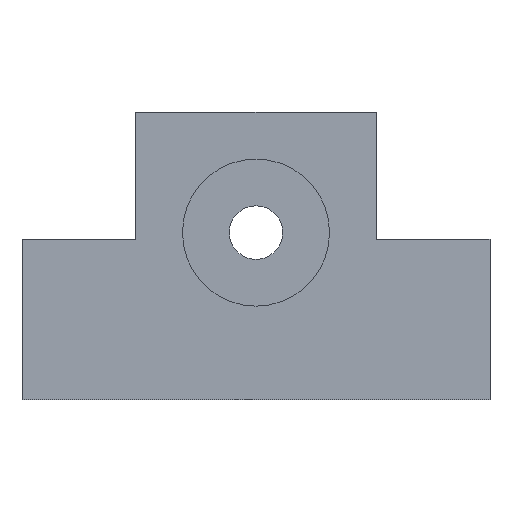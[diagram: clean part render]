
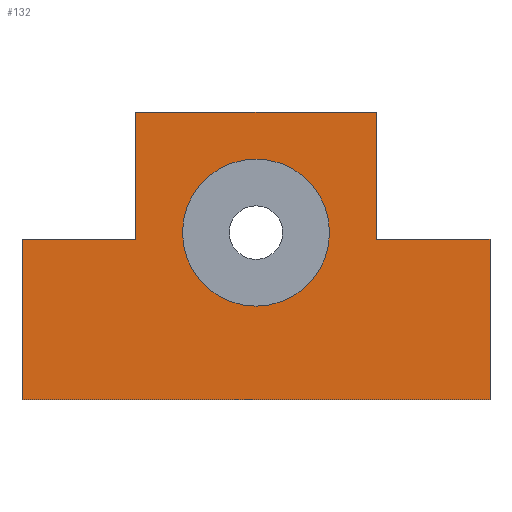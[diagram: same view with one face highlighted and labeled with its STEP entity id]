
A CAD part, left-side view. The second image highlights one B-rep face of the part: STEP entity #132.
In plain terms, the highlighted planar face has unit normal (-1, 0, 0).
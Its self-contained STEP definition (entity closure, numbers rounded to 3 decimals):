
#80=CIRCLE('',#403,11.);
#94=FACE_BOUND('',#172,.T.);
#95=FACE_BOUND('',#173,.T.);
#132=ADVANCED_FACE('',(#94,#95),#153,.F.);
#153=PLANE('',#404);
#172=EDGE_LOOP('',(#225,#226,#227,#228,#229,#230,#231,#232));
#173=EDGE_LOOP('',(#233));
#225=ORIENTED_EDGE('',*,*,#329,.F.);
#226=ORIENTED_EDGE('',*,*,#326,.F.);
#227=ORIENTED_EDGE('',*,*,#323,.F.);
#228=ORIENTED_EDGE('',*,*,#320,.F.);
#229=ORIENTED_EDGE('',*,*,#330,.F.);
#230=ORIENTED_EDGE('',*,*,#316,.F.);
#231=ORIENTED_EDGE('',*,*,#331,.F.);
#232=ORIENTED_EDGE('',*,*,#312,.F.);
#233=ORIENTED_EDGE('',*,*,#332,.T.);
#281=VERTEX_POINT('',#537);
#283=VERTEX_POINT('',#540);
#285=VERTEX_POINT('',#546);
#287=VERTEX_POINT('',#549);
#289=VERTEX_POINT('',#555);
#291=VERTEX_POINT('',#558);
#293=VERTEX_POINT('',#564);
#295=VERTEX_POINT('',#570);
#297=VERTEX_POINT('',#579);
#312=EDGE_CURVE('LINE',#281,#283,#350,.T.);
#316=EDGE_CURVE('LINE',#285,#287,#354,.T.);
#320=EDGE_CURVE('LINE',#289,#291,#358,.T.);
#323=EDGE_CURVE('LINE',#291,#293,#361,.T.);
#326=EDGE_CURVE('LINE',#293,#295,#364,.T.);
#329=EDGE_CURVE('LINE',#295,#281,#367,.T.);
#330=EDGE_CURVE('LINE',#287,#289,#368,.T.);
#331=EDGE_CURVE('LINE',#283,#285,#369,.T.);
#332=EDGE_CURVE('GENERATED CIRCLE',#297,#297,#80,.T.);
#350=LINE('',#539,#374);
#354=LINE('',#548,#378);
#358=LINE('',#557,#382);
#361=LINE('',#563,#385);
#364=LINE('',#569,#388);
#367=LINE('',#575,#391);
#368=LINE('',#576,#392);
#369=LINE('',#577,#393);
#374=VECTOR('',#438,1.);
#378=VECTOR('',#444,1.);
#382=VECTOR('',#450,1.);
#385=VECTOR('',#455,1.);
#388=VECTOR('',#460,1.);
#391=VECTOR('',#465,1.);
#392=VECTOR('',#466,1.);
#393=VECTOR('',#467,1.);
#403=AXIS2_PLACEMENT_3D('',#578,#468,#469);
#404=AXIS2_PLACEMENT_3D('',#580,#470,#471);
#438=DIRECTION('',(0.,0.,-1.));
#444=DIRECTION('',(0.,0.,1.));
#450=DIRECTION('',(0.,0.,1.));
#455=DIRECTION('',(0.,-1.,0.));
#460=DIRECTION('',(0.,0.,-1.));
#465=DIRECTION('',(0.,-1.,0.));
#466=DIRECTION('',(0.,-1.,0.));
#467=DIRECTION('',(0.,1.,0.));
#468=DIRECTION('',(1.,0.,0.));
#469=DIRECTION('',(0.,0.,-1.));
#470=DIRECTION('',(1.,0.,0.));
#471=DIRECTION('',(0.,-1.,0.));
#537=CARTESIAN_POINT('',(-10.,-35.,24.));
#539=CARTESIAN_POINT('',(-10.,-35.,12.));
#540=CARTESIAN_POINT('',(-10.,-35.,0.));
#546=CARTESIAN_POINT('',(-10.,35.,0.));
#548=CARTESIAN_POINT('',(-10.,35.,12.));
#549=CARTESIAN_POINT('',(-10.,35.,24.));
#555=CARTESIAN_POINT('',(-10.,18.,24.));
#557=CARTESIAN_POINT('',(-10.,18.,33.5));
#558=CARTESIAN_POINT('',(-10.,18.,43.));
#563=CARTESIAN_POINT('',(-10.,0.,43.));
#564=CARTESIAN_POINT('',(-10.,-18.,43.));
#569=CARTESIAN_POINT('',(-10.,-18.,33.5));
#570=CARTESIAN_POINT('',(-10.,-18.,24.));
#575=CARTESIAN_POINT('',(-10.,-26.5,24.));
#576=CARTESIAN_POINT('',(-10.,26.5,24.));
#577=CARTESIAN_POINT('',(-10.,0.,0.));
#578=CARTESIAN_POINT('',(-10.,0.,25.));
#579=CARTESIAN_POINT('',(-10.,0.,14.));
#580=CARTESIAN_POINT('',(-10.,0.,0.));
